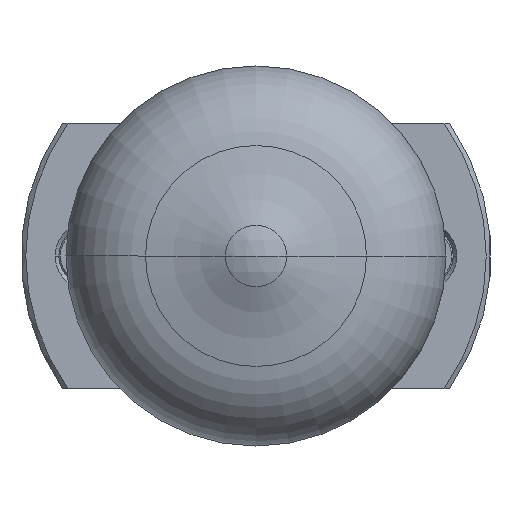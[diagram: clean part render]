
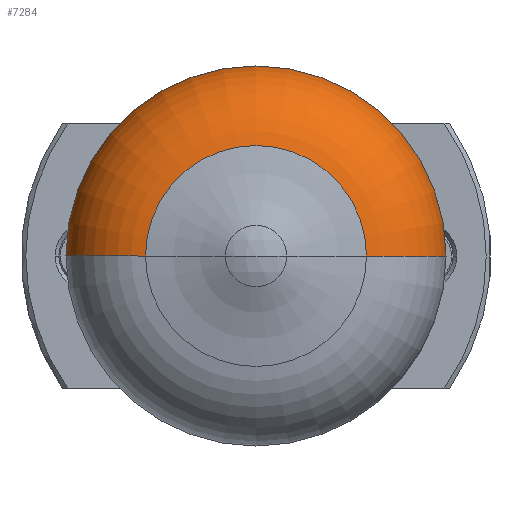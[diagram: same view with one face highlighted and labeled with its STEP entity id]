
A CAD part, left-side view. The second image highlights one B-rep face of the part: STEP entity #7284.
In plain terms, the highlighted toroidal (fillet/blend) face has major radius 2.05 mm and minor radius 2 mm.
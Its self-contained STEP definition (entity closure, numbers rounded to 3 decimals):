
#432 = CARTESIAN_POINT ( 'NONE',  ( -9.4, -2.05, 0. ) ) ;
#696 = VERTEX_POINT ( 'NONE', #3298 ) ;
#811 = EDGE_LOOP ( 'NONE', ( #7504, #3285, #8162, #2674 ) ) ;
#1315 = DIRECTION ( 'NONE',  ( 0., -1., 0. ) ) ;
#1340 = CIRCLE ( 'NONE', #4605, 2. ) ;
#1408 = FACE_OUTER_BOUND ( 'NONE', #811, .T. ) ;
#1466 = CIRCLE ( 'NONE', #6096, 4.05 ) ;
#2125 = TOROIDAL_SURFACE ( 'NONE', #7894, 2.05, 2. ) ;
#2470 = EDGE_CURVE ( 'NONE', #11686, #696, #1466, .T. ) ;
#2674 = ORIENTED_EDGE ( 'NONE', *, *, #9841, .F. ) ;
#2749 = DIRECTION ( 'NONE',  ( 0., 0., 1. ) ) ;
#2976 = EDGE_CURVE ( 'NONE', #696, #5820, #9191, .T. ) ;
#3044 = DIRECTION ( 'NONE',  ( -1., 0., 0. ) ) ;
#3285 = ORIENTED_EDGE ( 'NONE', *, *, #2976, .T. ) ;
#3298 = CARTESIAN_POINT ( 'NONE',  ( -9.4, 4.05, 0. ) ) ;
#4264 = DIRECTION ( 'NONE',  ( 0., -1., 0. ) ) ;
#4605 = AXIS2_PLACEMENT_3D ( 'NONE', #432, #7905, #8834 ) ;
#4693 = DIRECTION ( 'NONE',  ( -1., 0., 0. ) ) ;
#5212 = CARTESIAN_POINT ( 'NONE',  ( -9.4, -4.05, 0. ) ) ;
#5574 = AXIS2_PLACEMENT_3D ( 'NONE', #7307, #2749, #9162 ) ;
#5820 = VERTEX_POINT ( 'NONE', #9610 ) ;
#6096 = AXIS2_PLACEMENT_3D ( 'NONE', #8752, #6880, #4264 ) ;
#6341 = CIRCLE ( 'NONE', #10062, 2.355 ) ;
#6671 = CARTESIAN_POINT ( 'NONE',  ( -11.377, 0., 0. ) ) ;
#6880 = DIRECTION ( 'NONE',  ( -1., 0., 0. ) ) ;
#7284 = ADVANCED_FACE ( 'NONE', ( #1408 ), #2125, .T. ) ;
#7307 = CARTESIAN_POINT ( 'NONE',  ( -9.4, 2.05, 0. ) ) ;
#7504 = ORIENTED_EDGE ( 'NONE', *, *, #2470, .T. ) ;
#7894 = AXIS2_PLACEMENT_3D ( 'NONE', #9331, #4693, #10306 ) ;
#7905 = DIRECTION ( 'NONE',  ( 0., 0., -1. ) ) ;
#8162 = ORIENTED_EDGE ( 'NONE', *, *, #10301, .F. ) ;
#8752 = CARTESIAN_POINT ( 'NONE',  ( -9.4, 0., 0. ) ) ;
#8834 = DIRECTION ( 'NONE',  ( -1., 0., 0. ) ) ;
#9162 = DIRECTION ( 'NONE',  ( 0., -1., 0. ) ) ;
#9191 = CIRCLE ( 'NONE', #5574, 2. ) ;
#9331 = CARTESIAN_POINT ( 'NONE',  ( -9.4, 0., 0. ) ) ;
#9610 = CARTESIAN_POINT ( 'NONE',  ( -11.377, 2.355, 0. ) ) ;
#9841 = EDGE_CURVE ( 'NONE', #11686, #10373, #1340, .T. ) ;
#10062 = AXIS2_PLACEMENT_3D ( 'NONE', #6671, #3044, #1315 ) ;
#10301 = EDGE_CURVE ( 'NONE', #10373, #5820, #6341, .T. ) ;
#10306 = DIRECTION ( 'NONE',  ( 0., -1., 0. ) ) ;
#10373 = VERTEX_POINT ( 'NONE', #11316 ) ;
#11316 = CARTESIAN_POINT ( 'NONE',  ( -11.377, -2.355, 0. ) ) ;
#11686 = VERTEX_POINT ( 'NONE', #5212 ) ;
